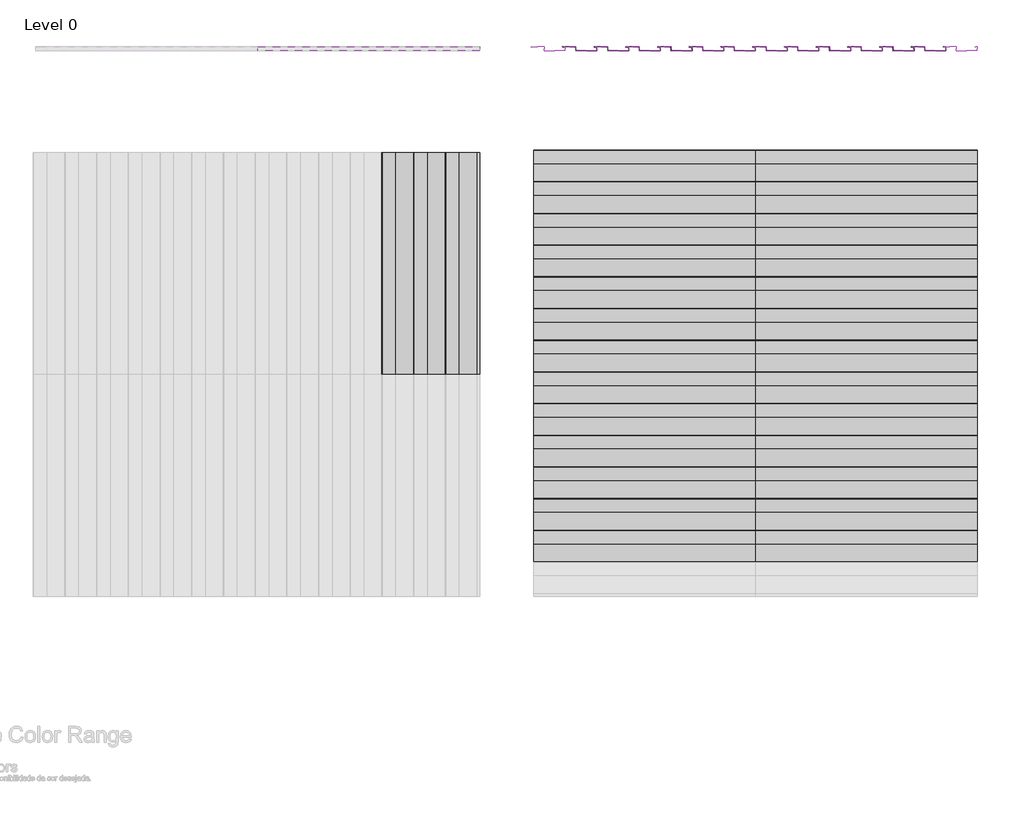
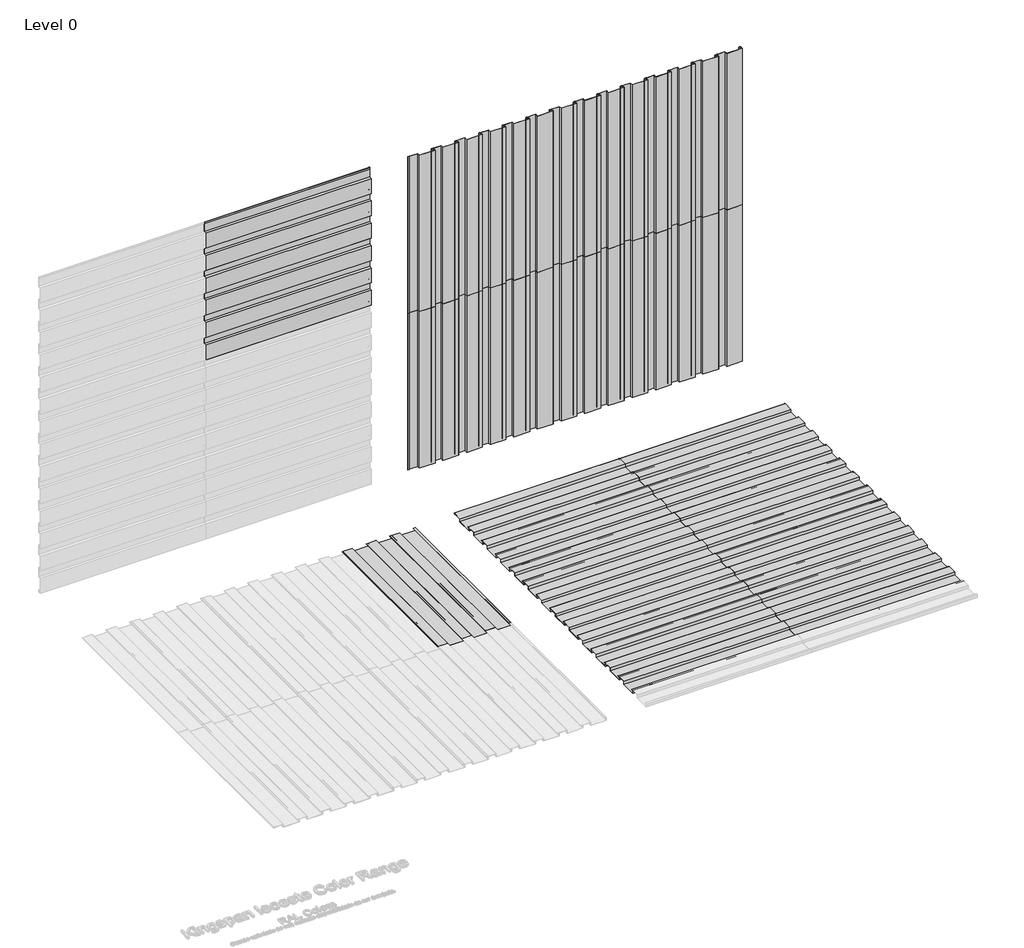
# One storey, part 2 of 2: 63 proxies.
"""IFC4 building model written with IfcOpenShell, lengths in millimetres."""

from ifc_helpers import new_model, si_unit, origin, place, context, project, spatial, transform, mapped, element, save
from components import mx9_0_standard_panel_ns_4979d104, mx9_0_standard_panel_ns_2f6deb61

model = new_model("IFC4")

# Units and contexts
model_context = context("Model", 3, world=origin())
ifc_project = project(units=[si_unit("LENGTHUNIT", "METRE", prefix="MILLI")], contexts=[model_context])

# Site, building, storey
site = spatial("IfcSite", under=ifc_project)
building = spatial("IfcBuilding", under=site)
storey = spatial("IfcBuildingStorey", under=building, Name="Level 0", Elevation=0.0)

# Proxies
placement = place(None, origin())
mx9_0_standard_panel_ns_shape = mx9_0_standard_panel_ns_4979d104(model_context)
element("IfcBuildingElementProxy", 1, Name="MX9.0 : Standard Panel_NS", ObjectType="MX9.0 : Standard Panel_NS", at=placement, inside=storey, context=model_context, shape_type="MappedRepresentation", body=[
    mapped(mx9_0_standard_panel_ns_shape, transform((3689.7088665, 5063.0274074, 0.0), x_axis=(0.0, 0.0, 1.0), y_axis=(-1.0, 0.0, 0.0), z_axis=(0.0, -1.0, 0.0))),
])
element("IfcBuildingElementProxy", 2, Name="MX9.0 : Standard Panel_NS", ObjectType="MX9.0 : Standard Panel_NS", at=placement, inside=storey, context=model_context, shape_type="MappedRepresentation", body=[
    mapped(mx9_0_standard_panel_ns_shape, transform((3689.7088665, 5063.0274074, 2100.0), x_axis=(0.0, 0.0, 1.0), y_axis=(-1.0, 0.0, 0.0), z_axis=(0.0, -1.0, 0.0))),
])
mx9_0_standard_panel_ns_2_shape = mx9_0_standard_panel_ns_2f6deb61(model_context)
element("IfcBuildingElementProxy", 3, Name="MX9.0 : Standard Panel_NS", ObjectType="MX9.0 : Standard Panel_NS", at=placement, inside=storey, context=model_context, shape_type="MappedRepresentation", body=[
    mapped(mx9_0_standard_panel_ns_2_shape, transform((1289.7088668, 1658.3113453, 0.0), x_axis=(1.0, 0.0, 0.0), y_axis=(0.0, 1.0, 0.0), z_axis=(0.0, 0.0, 1.0))),
])
element("IfcBuildingElementProxy", 4, Name="MX9.0 : Standard Panel_NS", ObjectType="MX9.0 : Standard Panel_NS", at=placement, inside=storey, context=model_context, shape_type="MappedRepresentation", body=[
    mapped(mx9_0_standard_panel_ns_2_shape, transform((3389.7088668, 1658.3113453, 0.0), x_axis=(1.0, 0.0, 0.0), y_axis=(0.0, 1.0, 0.0), z_axis=(0.0, 0.0, 1.0))),
])
element("IfcBuildingElementProxy", 5, Name="MX9.0 : Standard Panel_NS", ObjectType="MX9.0 : Standard Panel_NS", at=placement, inside=storey, context=model_context, shape_type="MappedRepresentation", body=[
    mapped(mx9_0_standard_panel_ns_shape, transform((3089.7088665, 5063.0274074, 0.0), x_axis=(0.0, 0.0, 1.0), y_axis=(-1.0, 0.0, 0.0), z_axis=(0.0, -1.0, 0.0))),
])
element("IfcBuildingElementProxy", 6, Name="MX9.0 : Standard Panel_NS", ObjectType="MX9.0 : Standard Panel_NS", at=placement, inside=storey, context=model_context, shape_type="MappedRepresentation", body=[
    mapped(mx9_0_standard_panel_ns_shape, transform((3089.7088665, 5063.0274074, 2100.0), x_axis=(0.0, 0.0, 1.0), y_axis=(-1.0, 0.0, 0.0), z_axis=(0.0, -1.0, 0.0))),
])
element("IfcBuildingElementProxy", 7, Name="MX9.0 : Standard Panel_NS", ObjectType="MX9.0 : Standard Panel_NS", at=placement, inside=storey, context=model_context, shape_type="MappedRepresentation", body=[
    mapped(mx9_0_standard_panel_ns_shape, transform((-1317.7637295, 5063.0274074, 2400.0), x_axis=(1.0, 0.0, 0.0), y_axis=(0.0, 0.0, 1.0), z_axis=(0.0, -1.0, 0.0))),
])
element("IfcBuildingElementProxy", 8, Name="MX9.0 : Standard Panel_NS", ObjectType="MX9.0 : Standard Panel_NS", at=placement, inside=storey, context=model_context, shape_type="MappedRepresentation", body=[
    mapped(mx9_0_standard_panel_ns_shape, transform((5489.7088666, 5063.0274074, 0.0), x_axis=(0.0, 0.0, 1.0), y_axis=(-1.0, 0.0, 0.0), z_axis=(0.0, -1.0, 0.0))),
])
element("IfcBuildingElementProxy", 9, Name="MX9.0 : Standard Panel_NS", ObjectType="MX9.0 : Standard Panel_NS", at=placement, inside=storey, context=model_context, shape_type="MappedRepresentation", body=[
    mapped(mx9_0_standard_panel_ns_shape, transform((5489.7088666, 5063.0274074, 2100.0), x_axis=(0.0, 0.0, 1.0), y_axis=(-1.0, 0.0, 0.0), z_axis=(0.0, -1.0, 0.0))),
])
element("IfcBuildingElementProxy", 10, Name="MX9.0 : Standard Panel_NS", ObjectType="MX9.0 : Standard Panel_NS", at=placement, inside=storey, context=model_context, shape_type="MappedRepresentation", body=[
    mapped(mx9_0_standard_panel_ns_2_shape, transform((1289.7088668, 2258.3113453, 0.0), x_axis=(1.0, 0.0, 0.0), y_axis=(0.0, 1.0, 0.0), z_axis=(0.0, 0.0, 1.0))),
])
element("IfcBuildingElementProxy", 11, Name="MX9.0 : Standard Panel_NS", ObjectType="MX9.0 : Standard Panel_NS", at=placement, inside=storey, context=model_context, shape_type="MappedRepresentation", body=[
    mapped(mx9_0_standard_panel_ns_2_shape, transform((782.2362705, 1958.3113453, 0.0), x_axis=(0.0, 1.0, 0.0), y_axis=(-1.0, 0.0, 0.0), z_axis=(0.0, 0.0, 1.0))),
])
element("IfcBuildingElementProxy", 12, Name="MX9.0 : Standard Panel_NS", ObjectType="MX9.0 : Standard Panel_NS", at=placement, inside=storey, context=model_context, shape_type="MappedRepresentation", body=[
    mapped(mx9_0_standard_panel_ns_2_shape, transform((3389.7088668, 2258.3113453, 0.0), x_axis=(1.0, 0.0, 0.0), y_axis=(0.0, 1.0, 0.0), z_axis=(0.0, 0.0, 1.0))),
])
element("IfcBuildingElementProxy", 13, Name="MX9.0 : Standard Panel_NS", ObjectType="MX9.0 : Standard Panel_NS", at=placement, inside=storey, context=model_context, shape_type="MappedRepresentation", body=[
    mapped(mx9_0_standard_panel_ns_2_shape, transform((1289.7088668, 1358.3113453, 0.0), x_axis=(1.0, 0.0, 0.0), y_axis=(0.0, 1.0, 0.0), z_axis=(0.0, 0.0, 1.0))),
])
element("IfcBuildingElementProxy", 14, Name="MX9.0 : Standard Panel_NS", ObjectType="MX9.0 : Standard Panel_NS", at=placement, inside=storey, context=model_context, shape_type="MappedRepresentation", body=[
    mapped(mx9_0_standard_panel_ns_2_shape, transform((1289.7088668, 3758.3113453, 0.0), x_axis=(1.0, 0.0, 0.0), y_axis=(0.0, 1.0, 0.0), z_axis=(0.0, 0.0, 1.0))),
])
element("IfcBuildingElementProxy", 15, Name="MX9.0 : Standard Panel_NS", ObjectType="MX9.0 : Standard Panel_NS", at=placement, inside=storey, context=model_context, shape_type="MappedRepresentation", body=[
    mapped(mx9_0_standard_panel_ns_2_shape, transform((3389.7088668, 1358.3113453, 0.0), x_axis=(1.0, 0.0, 0.0), y_axis=(0.0, 1.0, 0.0), z_axis=(0.0, 0.0, 1.0))),
])
element("IfcBuildingElementProxy", 16, Name="MX9.0 : Standard Panel_NS", ObjectType="MX9.0 : Standard Panel_NS", at=placement, inside=storey, context=model_context, shape_type="MappedRepresentation", body=[
    mapped(mx9_0_standard_panel_ns_2_shape, transform((3389.7088668, 3758.3113453, 0.0), x_axis=(1.0, 0.0, 0.0), y_axis=(0.0, 1.0, 0.0), z_axis=(0.0, 0.0, 1.0))),
])
element("IfcBuildingElementProxy", 17, Name="MX9.0 : Standard Panel_NS", ObjectType="MX9.0 : Standard Panel_NS", at=placement, inside=storey, context=model_context, shape_type="MappedRepresentation", body=[
    mapped(mx9_0_standard_panel_ns_shape, transform((1589.7088666, 5063.0274074, 0.0), x_axis=(0.0, 0.0, 1.0), y_axis=(-1.0, 0.0, 0.0), z_axis=(0.0, -1.0, 0.0))),
])
element("IfcBuildingElementProxy", 18, Name="MX9.0 : Standard Panel_NS", ObjectType="MX9.0 : Standard Panel_NS", at=placement, inside=storey, context=model_context, shape_type="MappedRepresentation", body=[
    mapped(mx9_0_standard_panel_ns_shape, transform((1589.7088666, 5063.0274074, 2100.0), x_axis=(0.0, 0.0, 1.0), y_axis=(-1.0, 0.0, 0.0), z_axis=(0.0, -1.0, 0.0))),
])
element("IfcBuildingElementProxy", 19, Name="MX9.0 : Standard Panel_NS", ObjectType="MX9.0 : Standard Panel_NS", at=placement, inside=storey, context=model_context, shape_type="MappedRepresentation", body=[
    mapped(mx9_0_standard_panel_ns_shape, transform((-1317.7637295, 5063.0274074, 3900.0), x_axis=(1.0, 0.0, 0.0), y_axis=(0.0, 0.0, 1.0), z_axis=(0.0, -1.0, 0.0))),
])
element("IfcBuildingElementProxy", 20, Name="MX9.0 : Standard Panel_NS", ObjectType="MX9.0 : Standard Panel_NS", at=placement, inside=storey, context=model_context, shape_type="MappedRepresentation", body=[
    mapped(mx9_0_standard_panel_ns_shape, transform((3989.7088665, 5063.0274074, 0.0), x_axis=(0.0, 0.0, 1.0), y_axis=(-1.0, 0.0, 0.0), z_axis=(0.0, -1.0, 0.0))),
])
element("IfcBuildingElementProxy", 21, Name="MX9.0 : Standard Panel_NS", ObjectType="MX9.0 : Standard Panel_NS", at=placement, inside=storey, context=model_context, shape_type="MappedRepresentation", body=[
    mapped(mx9_0_standard_panel_ns_shape, transform((3989.7088665, 5063.0274074, 2100.0), x_axis=(0.0, 0.0, 1.0), y_axis=(-1.0, 0.0, 0.0), z_axis=(0.0, -1.0, 0.0))),
])
element("IfcBuildingElementProxy", 22, Name="MX9.0 : Standard Panel_NS", ObjectType="MX9.0 : Standard Panel_NS", at=placement, inside=storey, context=model_context, shape_type="MappedRepresentation", body=[
    mapped(mx9_0_standard_panel_ns_shape, transform((2789.7088665, 5063.0274074, 0.0), x_axis=(0.0, 0.0, 1.0), y_axis=(-1.0, 0.0, 0.0), z_axis=(0.0, -1.0, 0.0))),
])
element("IfcBuildingElementProxy", 23, Name="MX9.0 : Standard Panel_NS", ObjectType="MX9.0 : Standard Panel_NS", at=placement, inside=storey, context=model_context, shape_type="MappedRepresentation", body=[
    mapped(mx9_0_standard_panel_ns_shape, transform((2789.7088665, 5063.0274074, 2100.0), x_axis=(0.0, 0.0, 1.0), y_axis=(-1.0, 0.0, 0.0), z_axis=(0.0, -1.0, 0.0))),
])
element("IfcBuildingElementProxy", 24, Name="MX9.0 : Standard Panel_NS", ObjectType="MX9.0 : Standard Panel_NS", at=placement, inside=storey, context=model_context, shape_type="MappedRepresentation", body=[
    mapped(mx9_0_standard_panel_ns_shape, transform((-1317.7637295, 5063.0274074, 2700.0), x_axis=(1.0, 0.0, 0.0), y_axis=(0.0, 0.0, 1.0), z_axis=(0.0, -1.0, 0.0))),
])
element("IfcBuildingElementProxy", 25, Name="MX9.0 : Standard Panel_NS", ObjectType="MX9.0 : Standard Panel_NS", at=placement, inside=storey, context=model_context, shape_type="MappedRepresentation", body=[
    mapped(mx9_0_standard_panel_ns_shape, transform((5189.7088665, 5063.0274074, 0.0), x_axis=(0.0, 0.0, 1.0), y_axis=(-1.0, 0.0, 0.0), z_axis=(0.0, -1.0, 0.0))),
])
element("IfcBuildingElementProxy", 26, Name="MX9.0 : Standard Panel_NS", ObjectType="MX9.0 : Standard Panel_NS", at=placement, inside=storey, context=model_context, shape_type="MappedRepresentation", body=[
    mapped(mx9_0_standard_panel_ns_shape, transform((5189.7088665, 5063.0274074, 2100.0), x_axis=(0.0, 0.0, 1.0), y_axis=(-1.0, 0.0, 0.0), z_axis=(0.0, -1.0, 0.0))),
])
element("IfcBuildingElementProxy", 27, Name="MX9.0 : Standard Panel_NS", ObjectType="MX9.0 : Standard Panel_NS", at=placement, inside=storey, context=model_context, shape_type="MappedRepresentation", body=[
    mapped(mx9_0_standard_panel_ns_shape, transform((2489.7088665, 5063.0274074, 0.0), x_axis=(0.0, 0.0, 1.0), y_axis=(-1.0, 0.0, 0.0), z_axis=(0.0, -1.0, 0.0))),
])
element("IfcBuildingElementProxy", 28, Name="MX9.0 : Standard Panel_NS", ObjectType="MX9.0 : Standard Panel_NS", at=placement, inside=storey, context=model_context, shape_type="MappedRepresentation", body=[
    mapped(mx9_0_standard_panel_ns_shape, transform((2489.7088665, 5063.0274074, 2100.0), x_axis=(0.0, 0.0, 1.0), y_axis=(-1.0, 0.0, 0.0), z_axis=(0.0, -1.0, 0.0))),
])
element("IfcBuildingElementProxy", 29, Name="MX9.0 : Standard Panel_NS", ObjectType="MX9.0 : Standard Panel_NS", at=placement, inside=storey, context=model_context, shape_type="MappedRepresentation", body=[
    mapped(mx9_0_standard_panel_ns_shape, transform((-1317.7637295, 5063.0274074, 3000.0), x_axis=(1.0, 0.0, 0.0), y_axis=(0.0, 0.0, 1.0), z_axis=(0.0, -1.0, 0.0))),
])
element("IfcBuildingElementProxy", 30, Name="MX9.0 : Standard Panel_NS", ObjectType="MX9.0 : Standard Panel_NS", at=placement, inside=storey, context=model_context, shape_type="MappedRepresentation", body=[
    mapped(mx9_0_standard_panel_ns_shape, transform((4889.7088665, 5063.0274074, 0.0), x_axis=(0.0, 0.0, 1.0), y_axis=(-1.0, 0.0, 0.0), z_axis=(0.0, -1.0, 0.0))),
])
element("IfcBuildingElementProxy", 31, Name="MX9.0 : Standard Panel_NS", ObjectType="MX9.0 : Standard Panel_NS", at=placement, inside=storey, context=model_context, shape_type="MappedRepresentation", body=[
    mapped(mx9_0_standard_panel_ns_shape, transform((4889.7088665, 5063.0274074, 2100.0), x_axis=(0.0, 0.0, 1.0), y_axis=(-1.0, 0.0, 0.0), z_axis=(0.0, -1.0, 0.0))),
])
element("IfcBuildingElementProxy", 32, Name="MX9.0 : Standard Panel_NS", ObjectType="MX9.0 : Standard Panel_NS", at=placement, inside=storey, context=model_context, shape_type="MappedRepresentation", body=[
    mapped(mx9_0_standard_panel_ns_shape, transform((2189.7088665, 5063.0274074, 0.0), x_axis=(0.0, 0.0, 1.0), y_axis=(-1.0, 0.0, 0.0), z_axis=(0.0, -1.0, 0.0))),
])
element("IfcBuildingElementProxy", 33, Name="MX9.0 : Standard Panel_NS", ObjectType="MX9.0 : Standard Panel_NS", at=placement, inside=storey, context=model_context, shape_type="MappedRepresentation", body=[
    mapped(mx9_0_standard_panel_ns_shape, transform((2189.7088665, 5063.0274074, 2100.0), x_axis=(0.0, 0.0, 1.0), y_axis=(-1.0, 0.0, 0.0), z_axis=(0.0, -1.0, 0.0))),
])
element("IfcBuildingElementProxy", 34, Name="MX9.0 : Standard Panel_NS", ObjectType="MX9.0 : Standard Panel_NS", at=placement, inside=storey, context=model_context, shape_type="MappedRepresentation", body=[
    mapped(mx9_0_standard_panel_ns_shape, transform((-1317.7637295, 5063.0274074, 3300.0), x_axis=(1.0, 0.0, 0.0), y_axis=(0.0, 0.0, 1.0), z_axis=(0.0, -1.0, 0.0))),
])
element("IfcBuildingElementProxy", 35, Name="MX9.0 : Standard Panel_NS", ObjectType="MX9.0 : Standard Panel_NS", at=placement, inside=storey, context=model_context, shape_type="MappedRepresentation", body=[
    mapped(mx9_0_standard_panel_ns_shape, transform((4589.7088665, 5063.0274074, 0.0), x_axis=(0.0, 0.0, 1.0), y_axis=(-1.0, 0.0, 0.0), z_axis=(0.0, -1.0, 0.0))),
])
element("IfcBuildingElementProxy", 36, Name="MX9.0 : Standard Panel_NS", ObjectType="MX9.0 : Standard Panel_NS", at=placement, inside=storey, context=model_context, shape_type="MappedRepresentation", body=[
    mapped(mx9_0_standard_panel_ns_shape, transform((4589.7088665, 5063.0274074, 2100.0), x_axis=(0.0, 0.0, 1.0), y_axis=(-1.0, 0.0, 0.0), z_axis=(0.0, -1.0, 0.0))),
])
element("IfcBuildingElementProxy", 37, Name="MX9.0 : Standard Panel_NS", ObjectType="MX9.0 : Standard Panel_NS", at=placement, inside=storey, context=model_context, shape_type="MappedRepresentation", body=[
    mapped(mx9_0_standard_panel_ns_shape, transform((1889.7088665, 5063.0274074, 0.0), x_axis=(0.0, 0.0, 1.0), y_axis=(-1.0, 0.0, 0.0), z_axis=(0.0, -1.0, 0.0))),
])
element("IfcBuildingElementProxy", 38, Name="MX9.0 : Standard Panel_NS", ObjectType="MX9.0 : Standard Panel_NS", at=placement, inside=storey, context=model_context, shape_type="MappedRepresentation", body=[
    mapped(mx9_0_standard_panel_ns_shape, transform((1889.7088665, 5063.0274074, 2100.0), x_axis=(0.0, 0.0, 1.0), y_axis=(-1.0, 0.0, 0.0), z_axis=(0.0, -1.0, 0.0))),
])
element("IfcBuildingElementProxy", 39, Name="MX9.0 : Standard Panel_NS", ObjectType="MX9.0 : Standard Panel_NS", at=placement, inside=storey, context=model_context, shape_type="MappedRepresentation", body=[
    mapped(mx9_0_standard_panel_ns_shape, transform((-1317.7637295, 5063.0274074, 3600.0), x_axis=(1.0, 0.0, 0.0), y_axis=(0.0, 0.0, 1.0), z_axis=(0.0, -1.0, 0.0))),
])
element("IfcBuildingElementProxy", 40, Name="MX9.0 : Standard Panel_NS", ObjectType="MX9.0 : Standard Panel_NS", at=placement, inside=storey, context=model_context, shape_type="MappedRepresentation", body=[
    mapped(mx9_0_standard_panel_ns_shape, transform((4289.7088665, 5063.0274074, 0.0), x_axis=(0.0, 0.0, 1.0), y_axis=(-1.0, 0.0, 0.0), z_axis=(0.0, -1.0, 0.0))),
])
element("IfcBuildingElementProxy", 41, Name="MX9.0 : Standard Panel_NS", ObjectType="MX9.0 : Standard Panel_NS", at=placement, inside=storey, context=model_context, shape_type="MappedRepresentation", body=[
    mapped(mx9_0_standard_panel_ns_shape, transform((4289.7088665, 5063.0274074, 2100.0), x_axis=(0.0, 0.0, 1.0), y_axis=(-1.0, 0.0, 0.0), z_axis=(0.0, -1.0, 0.0))),
])
element("IfcBuildingElementProxy", 42, Name="MX9.0 : Standard Panel_NS", ObjectType="MX9.0 : Standard Panel_NS", at=placement, inside=storey, context=model_context, shape_type="MappedRepresentation", body=[
    mapped(mx9_0_standard_panel_ns_shape, transform((3389.7088665, 5063.0274074, 0.0), x_axis=(0.0, 0.0, 1.0), y_axis=(-1.0, 0.0, 0.0), z_axis=(0.0, -1.0, 0.0))),
])
element("IfcBuildingElementProxy", 43, Name="MX9.0 : Standard Panel_NS", ObjectType="MX9.0 : Standard Panel_NS", at=placement, inside=storey, context=model_context, shape_type="MappedRepresentation", body=[
    mapped(mx9_0_standard_panel_ns_shape, transform((3389.7088665, 5063.0274074, 2100.0), x_axis=(0.0, 0.0, 1.0), y_axis=(-1.0, 0.0, 0.0), z_axis=(0.0, -1.0, 0.0))),
])
element("IfcBuildingElementProxy", 44, Name="MX9.0 : Standard Panel_NS", ObjectType="MX9.0 : Standard Panel_NS", at=placement, inside=storey, context=model_context, shape_type="MappedRepresentation", body=[
    mapped(mx9_0_standard_panel_ns_2_shape, transform((1289.7088668, 158.3113453, 0.0), x_axis=(1.0, 0.0, 0.0), y_axis=(0.0, 1.0, 0.0), z_axis=(0.0, 0.0, 1.0))),
])
element("IfcBuildingElementProxy", 45, Name="MX9.0 : Standard Panel_NS", ObjectType="MX9.0 : Standard Panel_NS", at=placement, inside=storey, context=model_context, shape_type="MappedRepresentation", body=[
    mapped(mx9_0_standard_panel_ns_2_shape, transform((1289.7088668, 2558.3113453, 0.0), x_axis=(1.0, 0.0, 0.0), y_axis=(0.0, 1.0, 0.0), z_axis=(0.0, 0.0, 1.0))),
])
element("IfcBuildingElementProxy", 46, Name="MX9.0 : Standard Panel_NS", ObjectType="MX9.0 : Standard Panel_NS", at=placement, inside=storey, context=model_context, shape_type="MappedRepresentation", body=[
    mapped(mx9_0_standard_panel_ns_2_shape, transform((482.2362703, 1958.3113453, 0.0), x_axis=(0.0, 1.0, 0.0), y_axis=(-1.0, 0.0, 0.0), z_axis=(0.0, 0.0, 1.0))),
])
element("IfcBuildingElementProxy", 47, Name="MX9.0 : Standard Panel_NS", ObjectType="MX9.0 : Standard Panel_NS", at=placement, inside=storey, context=model_context, shape_type="MappedRepresentation", body=[
    mapped(mx9_0_standard_panel_ns_2_shape, transform((3389.7088668, 158.3113453, 0.0), x_axis=(1.0, 0.0, 0.0), y_axis=(0.0, 1.0, 0.0), z_axis=(0.0, 0.0, 1.0))),
])
element("IfcBuildingElementProxy", 48, Name="MX9.0 : Standard Panel_NS", ObjectType="MX9.0 : Standard Panel_NS", at=placement, inside=storey, context=model_context, shape_type="MappedRepresentation", body=[
    mapped(mx9_0_standard_panel_ns_2_shape, transform((3389.7088668, 2558.3113453, 0.0), x_axis=(1.0, 0.0, 0.0), y_axis=(0.0, 1.0, 0.0), z_axis=(0.0, 0.0, 1.0))),
])
element("IfcBuildingElementProxy", 49, Name="MX9.0 : Standard Panel_NS", ObjectType="MX9.0 : Standard Panel_NS", at=placement, inside=storey, context=model_context, shape_type="MappedRepresentation", body=[
    mapped(mx9_0_standard_panel_ns_2_shape, transform((1289.7088668, 458.3113453, 0.0), x_axis=(1.0, 0.0, 0.0), y_axis=(0.0, 1.0, 0.0), z_axis=(0.0, 0.0, 1.0))),
])
element("IfcBuildingElementProxy", 50, Name="MX9.0 : Standard Panel_NS", ObjectType="MX9.0 : Standard Panel_NS", at=placement, inside=storey, context=model_context, shape_type="MappedRepresentation", body=[
    mapped(mx9_0_standard_panel_ns_2_shape, transform((1289.7088668, 2858.3113453, 0.0), x_axis=(1.0, 0.0, 0.0), y_axis=(0.0, 1.0, 0.0), z_axis=(0.0, 0.0, 1.0))),
])
element("IfcBuildingElementProxy", 51, Name="MX9.0 : Standard Panel_NS", ObjectType="MX9.0 : Standard Panel_NS", at=placement, inside=storey, context=model_context, shape_type="MappedRepresentation", body=[
    mapped(mx9_0_standard_panel_ns_2_shape, transform((182.2362703, 1958.3113453, 0.0), x_axis=(0.0, 1.0, 0.0), y_axis=(-1.0, 0.0, 0.0), z_axis=(0.0, 0.0, 1.0))),
])
element("IfcBuildingElementProxy", 52, Name="MX9.0 : Standard Panel_NS", ObjectType="MX9.0 : Standard Panel_NS", at=placement, inside=storey, context=model_context, shape_type="MappedRepresentation", body=[
    mapped(mx9_0_standard_panel_ns_2_shape, transform((3389.7088668, 458.3113453, 0.0), x_axis=(1.0, 0.0, 0.0), y_axis=(0.0, 1.0, 0.0), z_axis=(0.0, 0.0, 1.0))),
])
element("IfcBuildingElementProxy", 53, Name="MX9.0 : Standard Panel_NS", ObjectType="MX9.0 : Standard Panel_NS", at=placement, inside=storey, context=model_context, shape_type="MappedRepresentation", body=[
    mapped(mx9_0_standard_panel_ns_2_shape, transform((3389.7088668, 2858.3113453, 0.0), x_axis=(1.0, 0.0, 0.0), y_axis=(0.0, 1.0, 0.0), z_axis=(0.0, 0.0, 1.0))),
])
element("IfcBuildingElementProxy", 54, Name="MX9.0 : Standard Panel_NS", ObjectType="MX9.0 : Standard Panel_NS", at=placement, inside=storey, context=model_context, shape_type="MappedRepresentation", body=[
    mapped(mx9_0_standard_panel_ns_2_shape, transform((1289.7088668, 758.3113453, 0.0), x_axis=(1.0, 0.0, 0.0), y_axis=(0.0, 1.0, 0.0), z_axis=(0.0, 0.0, 1.0))),
])
element("IfcBuildingElementProxy", 55, Name="MX9.0 : Standard Panel_NS", ObjectType="MX9.0 : Standard Panel_NS", at=placement, inside=storey, context=model_context, shape_type="MappedRepresentation", body=[
    mapped(mx9_0_standard_panel_ns_2_shape, transform((1289.7088668, 3158.3113453, 0.0), x_axis=(1.0, 0.0, 0.0), y_axis=(0.0, 1.0, 0.0), z_axis=(0.0, 0.0, 1.0))),
])
element("IfcBuildingElementProxy", 56, Name="MX9.0 : Standard Panel_NS", ObjectType="MX9.0 : Standard Panel_NS", at=placement, inside=storey, context=model_context, shape_type="MappedRepresentation", body=[
    mapped(mx9_0_standard_panel_ns_2_shape, transform((3389.7088668, 758.3113453, 0.0), x_axis=(1.0, 0.0, 0.0), y_axis=(0.0, 1.0, 0.0), z_axis=(0.0, 0.0, 1.0))),
])
element("IfcBuildingElementProxy", 57, Name="MX9.0 : Standard Panel_NS", ObjectType="MX9.0 : Standard Panel_NS", at=placement, inside=storey, context=model_context, shape_type="MappedRepresentation", body=[
    mapped(mx9_0_standard_panel_ns_2_shape, transform((3389.7088668, 3158.3113453, 0.0), x_axis=(1.0, 0.0, 0.0), y_axis=(0.0, 1.0, 0.0), z_axis=(0.0, 0.0, 1.0))),
])
element("IfcBuildingElementProxy", 58, Name="MX9.0 : Standard Panel_NS", ObjectType="MX9.0 : Standard Panel_NS", at=placement, inside=storey, context=model_context, shape_type="MappedRepresentation", body=[
    mapped(mx9_0_standard_panel_ns_2_shape, transform((1289.7088668, 1058.3113453, 0.0), x_axis=(1.0, 0.0, 0.0), y_axis=(0.0, 1.0, 0.0), z_axis=(0.0, 0.0, 1.0))),
])
element("IfcBuildingElementProxy", 59, Name="MX9.0 : Standard Panel_NS", ObjectType="MX9.0 : Standard Panel_NS", at=placement, inside=storey, context=model_context, shape_type="MappedRepresentation", body=[
    mapped(mx9_0_standard_panel_ns_2_shape, transform((1289.7088668, 3458.3113453, 0.0), x_axis=(1.0, 0.0, 0.0), y_axis=(0.0, 1.0, 0.0), z_axis=(0.0, 0.0, 1.0))),
])
element("IfcBuildingElementProxy", 60, Name="MX9.0 : Standard Panel_NS", ObjectType="MX9.0 : Standard Panel_NS", at=placement, inside=storey, context=model_context, shape_type="MappedRepresentation", body=[
    mapped(mx9_0_standard_panel_ns_2_shape, transform((3389.7088668, 1058.3113453, 0.0), x_axis=(1.0, 0.0, 0.0), y_axis=(0.0, 1.0, 0.0), z_axis=(0.0, 0.0, 1.0))),
])
element("IfcBuildingElementProxy", 61, Name="MX9.0 : Standard Panel_NS", ObjectType="MX9.0 : Standard Panel_NS", at=placement, inside=storey, context=model_context, shape_type="MappedRepresentation", body=[
    mapped(mx9_0_standard_panel_ns_2_shape, transform((3389.7088668, 3458.3113453, 0.0), x_axis=(1.0, 0.0, 0.0), y_axis=(0.0, 1.0, 0.0), z_axis=(0.0, 0.0, 1.0))),
])
element("IfcBuildingElementProxy", 62, Name="MX9.0 : Standard Panel_NS", ObjectType="MX9.0 : Standard Panel_NS", at=placement, inside=storey, context=model_context, shape_type="MappedRepresentation", body=[
    mapped(mx9_0_standard_panel_ns_2_shape, transform((1289.7088668, 1958.3113453, 0.0), x_axis=(1.0, 0.0, 0.0), y_axis=(0.0, 1.0, 0.0), z_axis=(0.0, 0.0, 1.0))),
])
element("IfcBuildingElementProxy", 63, Name="MX9.0 : Standard Panel_NS", ObjectType="MX9.0 : Standard Panel_NS", at=placement, inside=storey, context=model_context, shape_type="MappedRepresentation", body=[
    mapped(mx9_0_standard_panel_ns_2_shape, transform((3389.7088668, 1958.3113453, 0.0), x_axis=(1.0, 0.0, 0.0), y_axis=(0.0, 1.0, 0.0), z_axis=(0.0, 0.0, 1.0))),
])

save(model, "model.ifc")
